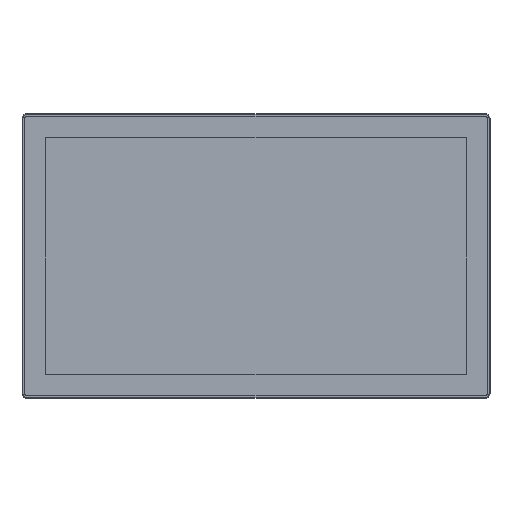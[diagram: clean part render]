
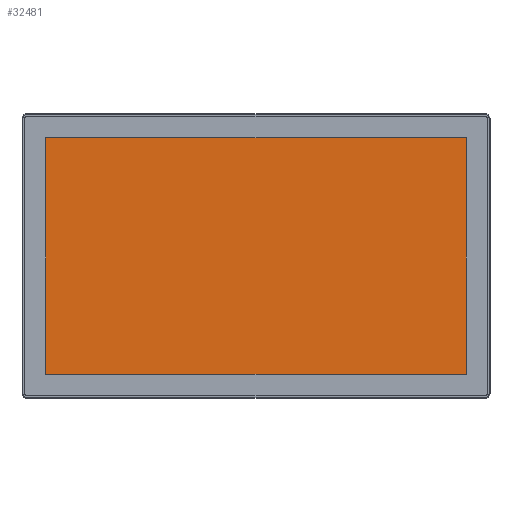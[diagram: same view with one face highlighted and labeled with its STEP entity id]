
A CAD part, top view. The second image highlights one B-rep face of the part: STEP entity #32481.
In plain terms, the highlighted planar face has unit normal (0, 0, 1).
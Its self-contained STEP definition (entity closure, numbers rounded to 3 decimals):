
#1850 = VERTEX_POINT ( 'NONE', #39605 ) ;
#5951 = DIRECTION ( 'NONE',  ( 0., 0., 1. ) ) ;
#14132 = FACE_OUTER_BOUND ( 'NONE', #104489, .T. ) ;
#17134 = DIRECTION ( 'NONE',  ( 1., 0., 0. ) ) ;
#18157 = LINE ( 'NONE', #56275, #39068 ) ;
#20409 = CARTESIAN_POINT ( 'NONE',  ( -238.92, 134.655, -0.05 ) ) ;
#20797 = CARTESIAN_POINT ( 'NONE',  ( -238.92, 134.655, -0.05 ) ) ;
#24639 = LINE ( 'NONE', #45822, #56004 ) ;
#24953 = DIRECTION ( 'NONE',  ( -1., 0., 0. ) ) ;
#32335 = CARTESIAN_POINT ( 'NONE',  ( -238.92, -134.655, -0.05 ) ) ;
#32481 = ADVANCED_FACE ( 'NONE', ( #14132 ), #100179, .T. ) ;
#38899 = CARTESIAN_POINT ( 'NONE',  ( 238.92, 134.655, -0.05 ) ) ;
#39068 = VECTOR ( 'NONE', #46861, 1000. ) ;
#39605 = CARTESIAN_POINT ( 'NONE',  ( -238.92, 134.655, -0.05 ) ) ;
#41412 = VERTEX_POINT ( 'NONE', #38899 ) ;
#44215 = VECTOR ( 'NONE', #67815, 1000. ) ;
#45822 = CARTESIAN_POINT ( 'NONE',  ( -238.92, -134.655, -0.05 ) ) ;
#46861 = DIRECTION ( 'NONE',  ( 0., 1., 0. ) ) ;
#55407 = EDGE_CURVE ( 'NONE', #41412, #1850, #110402, .T. ) ;
#55630 = VERTEX_POINT ( 'NONE', #32335 ) ;
#56004 = VECTOR ( 'NONE', #17134, 1000. ) ;
#56275 = CARTESIAN_POINT ( 'NONE',  ( 238.92, 134.655, -0.05 ) ) ;
#58193 = EDGE_CURVE ( 'NONE', #61800, #41412, #18157, .T. ) ;
#61443 = ORIENTED_EDGE ( 'NONE', *, *, #55407, .T. ) ;
#61800 = VERTEX_POINT ( 'NONE', #64417 ) ;
#64417 = CARTESIAN_POINT ( 'NONE',  ( 238.92, -134.655, -0.05 ) ) ;
#67815 = DIRECTION ( 'NONE',  ( 0., -1., 0. ) ) ;
#70419 = AXIS2_PLACEMENT_3D ( 'NONE', #92060, #5951, #82713 ) ;
#75765 = EDGE_CURVE ( 'NONE', #55630, #61800, #24639, .T. ) ;
#82713 = DIRECTION ( 'NONE',  ( 1., 0., 0. ) ) ;
#84438 = ORIENTED_EDGE ( 'NONE', *, *, #75765, .T. ) ;
#87937 = VECTOR ( 'NONE', #24953, 1000. ) ;
#92060 = CARTESIAN_POINT ( 'NONE',  ( 0., 0., -0.05 ) ) ;
#100179 = PLANE ( 'NONE',  #70419 ) ;
#104489 = EDGE_LOOP ( 'NONE', ( #122562, #84438, #111889, #61443 ) ) ;
#110402 = LINE ( 'NONE', #20797, #87937 ) ;
#111889 = ORIENTED_EDGE ( 'NONE', *, *, #58193, .T. ) ;
#115779 = LINE ( 'NONE', #20409, #44215 ) ;
#122280 = EDGE_CURVE ( 'NONE', #1850, #55630, #115779, .T. ) ;
#122562 = ORIENTED_EDGE ( 'NONE', *, *, #122280, .T. ) ;
